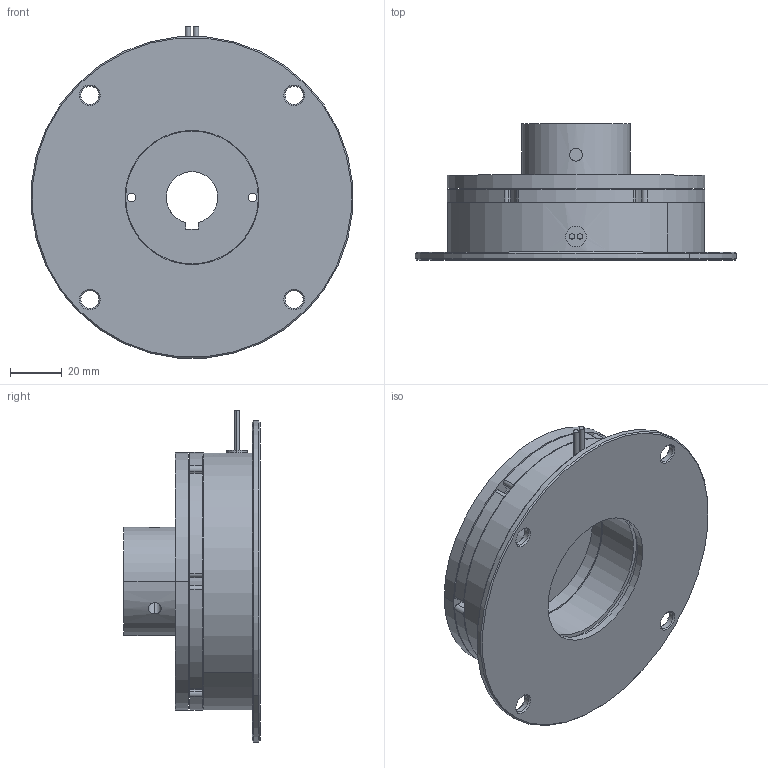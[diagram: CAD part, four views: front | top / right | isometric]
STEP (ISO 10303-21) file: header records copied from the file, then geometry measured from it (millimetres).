
FILE_DESCRIPTION (( 'STEP AP214' ), '1' );
FILE_NAME ('B-M20-F02-20.STEP', '2018-02-06T02:11:06', ( 'tec4' ), ( '' ), 'SwSTEP 2.0', 'SolidWorks 2015', '' );
FILE_SCHEMA (( 'AUTOMOTIVE_DESIGN' ));
Length unit declared in the file: millimetre
Products named in the file (1): B-M20-F02-20
Bounding box: 124.52 x 52.8 x 128.74 mm (x, y, z)
Surface area: 73427.5 mm2 (no closed solid volume)
Topology: 0 solids, 9 shells, 131 faces, 404 edges, 282 vertices
Faces by surface type: cylinder 85, plane 26, cone 20
Entity records: 6494 total; most frequent: CARTESIAN_POINT 1132, DIRECTION 900, ORIENTED_EDGE 712, EDGE_CURVE 404, AXIS2_PLACEMENT_3D 374, VERTEX_POINT 282, CIRCLE 242, EDGE_LOOP 198
